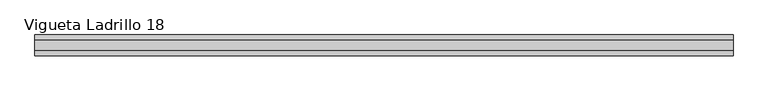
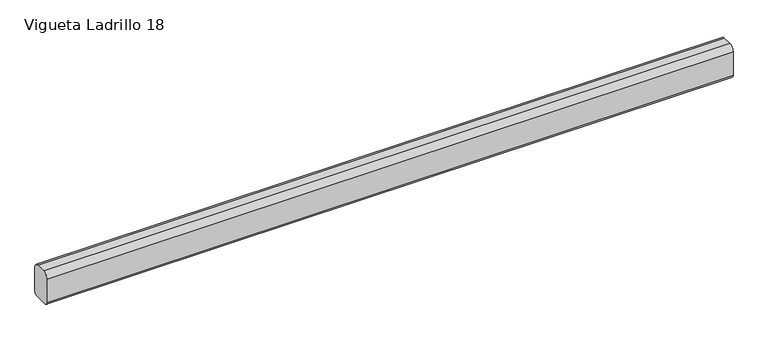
"""IFC4 building model written with IfcOpenShell, lengths in millimetres: beam geometry, Vigueta Ladrillo 18 : Ladrillo Exacta 18."""

from ifc_helpers import new_model, si_unit, point, frame, frame_2d, origin, place, context, project, spatial, polyline, circle_curve, trimmed, segment, composite_curve, outline, extrude, source, transform, mapped, element, save


def vigueta_ladrillo_18_f427e08d(model_context):
    return source(origin(), model_context, "Body", "SweptSolid", [
        extrude(outline(composite_curve([segment(trimmed(circle_curve(frame_2d((21.9, 52.5)), 25.0), [point((21.9, 77.5))], [point((46.9, 52.5))], False, "CARTESIAN"), True, "CONTINUOUS"), segment(polyline([(46.9, 52.5), (46.9, -62.5)]), True, "CONTINUOUS"), segment(trimmed(circle_curve(frame_2d((31.9, -62.5)), 15.0), [point((46.9, -62.5))], [point((31.9, -77.5))], False, "CARTESIAN"), True, "CONTINUOUS"), segment(polyline([(31.9, -77.5), (-31.9, -77.5)]), True, "CONTINUOUS"), segment(trimmed(circle_curve(frame_2d((-31.9, -62.5)), 15.0), [point((-31.9, -77.5))], [point((-46.9, -62.5))], False, "CARTESIAN"), True, "CONTINUOUS"), segment(polyline([(-46.9, -62.5), (-46.9, 52.5)]), True, "CONTINUOUS"), segment(trimmed(circle_curve(frame_2d((-21.9, 52.5)), 25.0), [point((-46.9, 52.5))], [point((-21.9, 77.5))], False, "CARTESIAN"), True, "CONTINUOUS"), segment(polyline([(-21.9, 77.5), (21.9, 77.5)]), True, "CONTINUOUS")], self_intersect=False)), frame((-1582.7, 0.0, 0.0), z_axis=(1.0, 0.0, 0.0), x_axis=(0.0, 1.0, 0.0)), (0.0, 0.0, 1.0), 3165.4),
    ])


if __name__ == "__main__":
    model = new_model("IFC4")
    model_context = context("Model", 3, world=origin())
    ifc_project = project(units=[si_unit("LENGTHUNIT", "METRE", prefix="MILLI")], contexts=[model_context])
    site = spatial("IfcSite", under=ifc_project)
    building = spatial("IfcBuilding", under=site)
    placement = place(None, origin())
    vigueta_ladrillo_18_shape = vigueta_ladrillo_18_f427e08d(model_context)
    element("IfcBeam", 1, ObjectType="Vigueta Ladrillo 18 : Ladrillo Exacta 18", at=placement, inside=building, context=model_context, shape_type="MappedRepresentation", body=[
        mapped(vigueta_ladrillo_18_shape, transform((0.0, 0.0, 0.0), x_axis=(1.0, 0.0, 0.0), y_axis=(0.0, 1.0, 0.0), z_axis=(0.0, 0.0, 1.0))),
    ])
    save(model, "model.ifc")
